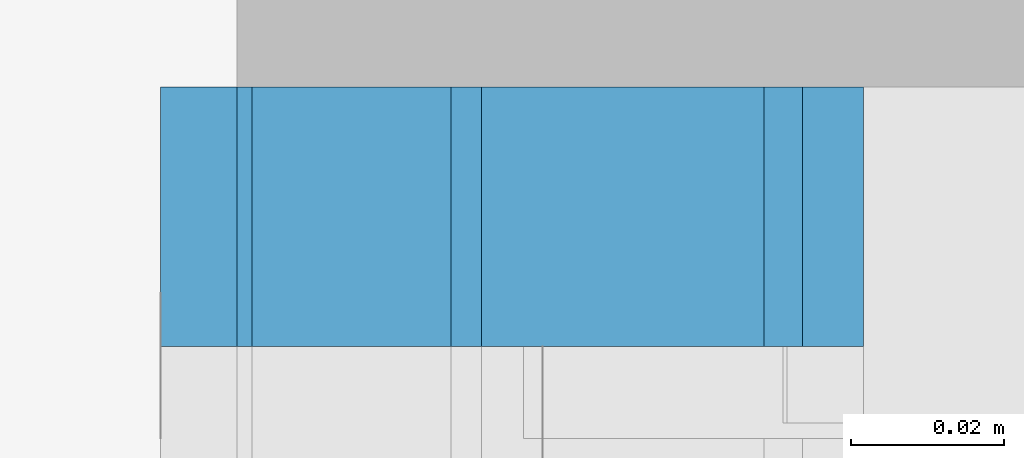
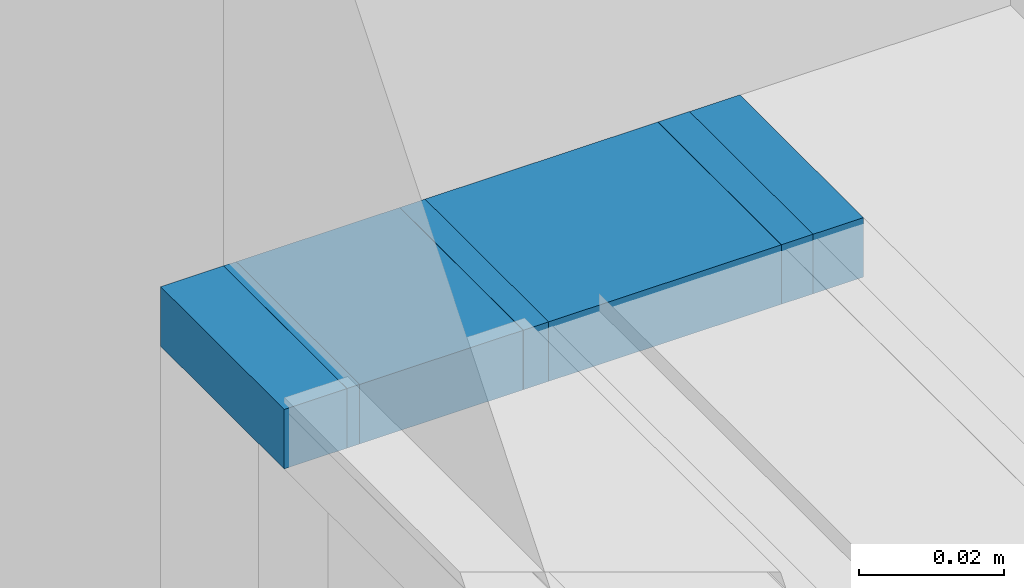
# One storey, part 35 of 89: 4 building element parts, 2 elements without a shape of their own.
"""IFC2X3 building model written with IfcOpenShell, lengths in millimetres."""

from ifc_helpers import new_model, entity, si_unit, converted_unit, derived_unit, money_unit, direction, frame, origin_with_axes, place, context, subcontext, project, spatial, faceted_brep, source, transform, mapped, material, type_object, element, aggregate, save


model = new_model("IFC2X3")

# Units and contexts
model_context = context("Model", 3, precision=0.01, world=origin_with_axes(), true_north=direction((0.0, 1.0)))
body_context = subcontext(model_context, "Body", "Model", "MODEL_VIEW")
ifc_project = project(units=[si_unit("LENGTHUNIT", "METRE", prefix="MILLI"), si_unit("AREAUNIT", "SQUARE_METRE"), si_unit("VOLUMEUNIT", "CUBIC_METRE"), converted_unit("PLANEANGLEUNIT", "DEGREE", entity("IfcPlaneAngleMeasure", 0.0174532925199), si_unit("PLANEANGLEUNIT", "RADIAN"), dimensions=[0, 0, 0, 0, 0, 0, 0]), si_unit("SOLIDANGLEUNIT", "STERADIAN"), money_unit("EUR"), converted_unit("TIMEUNIT", "Year", entity("IfcTimeMeasure", 31556926.0), si_unit("TIMEUNIT", "SECOND"), dimensions=[0, 0, 1, 0, 0, 0, 0]), si_unit("MASSUNIT", "GRAM", prefix="KILO"), si_unit("THERMODYNAMICTEMPERATUREUNIT", "DEGREE_CELSIUS"), si_unit("LUMINOUSINTENSITYUNIT", "LUMEN"), si_unit("ENERGYUNIT", "JOULE", prefix="MEGA"), derived_unit("THERMALCONDUCTANCEUNIT", [(si_unit("POWERUNIT", "WATT"), 1), (si_unit("LENGTHUNIT", "METRE"), -1), (si_unit("THERMODYNAMICTEMPERATUREUNIT", "KELVIN"), -1)]), derived_unit("SPECIFICHEATCAPACITYUNIT", [(si_unit("ENERGYUNIT", "JOULE"), 1), (si_unit("MASSUNIT", "GRAM", prefix="KILO"), -1), (si_unit("THERMODYNAMICTEMPERATUREUNIT", "KELVIN"), -1)]), derived_unit("MASSDENSITYUNIT", [(si_unit("MASSUNIT", "GRAM", prefix="KILO"), 1), (si_unit("VOLUMEUNIT", "CUBIC_METRE"), -1)])], contexts=[model_context])

# Site, building, storey
site_placement = place(None, origin_with_axes())
site = spatial("IfcSite", under=ifc_project, at=site_placement, Name="Puškini 31, Narva", CompositionType="ELEMENT")
building_placement = place(site_placement, origin_with_axes())
building = spatial("IfcBuilding", under=site, at=building_placement, Name="Narva Riigigümnaasium", CompositionType="ELEMENT")
storey_placement = place(building_placement, frame((0.0, 0.0, -3300.0), z_axis=(0.0, 0.0, 1.0), x_axis=(1.0, 0.0, 0.0)))
storey = spatial("IfcBuildingStorey", under=building, at=storey_placement, Name="1.korrus -3.3", CompositionType="ELEMENT", Elevation=-3300.0)

# Curtain wall, plate, building element parts
curtain_wall_type = type_object("IfcCurtainWallType", Name="Curtain Wall Type", PredefinedType="NOTDEFINED")
curtain_wall_placement = place(storey_placement, frame((33249.9999781, 201010.999711, -1.71671428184e-05), z_axis=(0.0, 0.0, 1.0), x_axis=(1.0, 0.0, 0.0)))
curtain_wall = element("IfcCurtainWall", 1, at=curtain_wall_placement, inside=storey, type_object=curtain_wall_type, Name="SUS-02")
plate_type = type_object("IfcPlateType", Name="SA-Siseuksesüsteem-Paneel 34 x 10 x 0", PredefinedType="CURTAIN_PANEL")
plate_placement = place(curtain_wall_placement, frame((0.0, 2367.00000032, 2395.00000263), z_axis=(0.0, 0.0, 1.0), x_axis=(0.0, -1.0, 0.0)))
plate = element("IfcPlate", 2, at=plate_placement, type_object=plate_type, Name="Panel-SA-Siseuks-084", ObjectType="CURTAIN_PANEL")
aggregate(curtain_wall, [plate])
ifc_material_1 = material(Name="MDF")
shared_shape_1 = source(origin_with_axes(), body_context, "Body", "Brep", [
    faceted_brep([(34.0, 10.0, 0.0), (0.0, 10.0, 0.0), (0.0, 10.0, 10.0), (34.0, 10.0, 10.0), (34.0, 0.0, 0.0), (0.0, 0.0, 0.0), (0.0, 0.0, 10.0), (34.0, 0.0, 10.0)], [[[0, 1, 2, 3]], [[0, 4, 5, 1]], [[1, 5, 6, 2]], [[3, 2, 6, 7]], [[4, 0, 3, 7]], [[5, 4, 7, 6]]]),
    faceted_brep([(34.0, 10.0, 84.0), (0.0, 10.0, 84.0), (0.0, 10.0, 92.0), (34.0, 10.0, 92.0), (34.0, 0.0, 84.0), (0.0, 0.0, 84.0), (0.0, 0.0, 92.0), (34.0, 0.0, 92.0)], [[[0, 1, 2, 3]], [[0, 4, 5, 1]], [[1, 5, 6, 2]], [[3, 2, 6, 7]], [[4, 0, 3, 7]], [[5, 4, 7, 6]]]),
])
building_element_part_1_placement = place(plate_placement, origin_with_axes())
building_element_part_1 = element("IfcBuildingElementPart", 3, at=building_element_part_1_placement, material=ifc_material_1, Name="MDF", context=body_context, shape_type="MappedRepresentation", body=[
    mapped(shared_shape_1, transform((17.0, 0.0, -5.0), x_axis=(-1.0, 0.0, 0.0), y_axis=(0.0, 0.0, 1.0), z_axis=(0.0, 1.0, 0.0))),
])
ifc_material_2 = material(Name="Õhkvahe")
shared_shape_2 = source(origin_with_axes(), body_context, "Body", "Brep", [
    faceted_brep([(34.0, 10.0, 10.0), (0.0, 10.0, 10.0), (0.0, 10.0, 12.0), (34.0, 10.0, 12.0), (34.0, 0.0, 10.0), (0.0, 0.0, 10.0), (0.0, 0.0, 12.0), (34.0, 0.0, 12.0)], [[[0, 1, 2, 3]], [[0, 4, 5, 1]], [[1, 5, 6, 2]], [[3, 2, 6, 7]], [[4, 0, 3, 7]], [[5, 4, 7, 6]]]),
    faceted_brep([(34.0, 10.0, 38.0), (0.0, 10.0, 38.0), (0.0, 10.0, 42.0), (34.0, 10.0, 42.0), (34.0, 0.0, 38.0), (0.0, 0.0, 38.0), (0.0, 0.0, 42.0), (34.0, 0.0, 42.0)], [[[0, 1, 2, 3]], [[0, 4, 5, 1]], [[1, 5, 6, 2]], [[3, 2, 6, 7]], [[4, 0, 3, 7]], [[5, 4, 7, 6]]]),
    faceted_brep([(34.0, 10.0, 79.0), (0.0, 10.0, 79.0), (0.0, 10.0, 84.0), (34.0, 10.0, 84.0), (34.0, 0.0, 79.0), (0.0, 0.0, 79.0), (0.0, 0.0, 84.0), (34.0, 0.0, 84.0)], [[[0, 1, 2, 3]], [[0, 4, 5, 1]], [[1, 5, 6, 2]], [[3, 2, 6, 7]], [[4, 0, 3, 7]], [[5, 4, 7, 6]]]),
])
building_element_part_2_placement = place(plate_placement, origin_with_axes())
building_element_part_2 = element("IfcBuildingElementPart", 4, at=building_element_part_2_placement, material=ifc_material_2, Name="Õhkvahe", context=body_context, shape_type="MappedRepresentation", body=[
    mapped(shared_shape_2, transform((17.0, 0.0, -5.0), x_axis=(-1.0, 0.0, 0.0), y_axis=(0.0, 0.0, 1.0), z_axis=(0.0, 1.0, 0.0))),
])
ifc_material_3 = material(Name="Kipsplaat")
shared_shape_3 = source(origin_with_axes(), body_context, "Body", "Brep", [
    faceted_brep([(34.0, 10.0, 12.0), (0.0, 10.0, 12.0), (0.0, 10.0, 25.0), (34.0, 10.0, 25.0), (34.0, 0.0, 12.0), (0.0, 0.0, 12.0), (0.0, 0.0, 25.0), (34.0, 0.0, 25.0)], [[[0, 1, 2, 3]], [[0, 4, 5, 1]], [[1, 5, 6, 2]], [[3, 2, 6, 7]], [[4, 0, 3, 7]], [[5, 4, 7, 6]]]),
    faceted_brep([(34.0, 10.0, 25.0), (0.0, 10.0, 25.0), (0.0, 10.0, 38.0), (34.0, 10.0, 38.0), (34.0, 0.0, 25.0), (0.0, 0.0, 25.0), (0.0, 0.0, 38.0), (34.0, 0.0, 38.0)], [[[0, 1, 2, 3]], [[0, 4, 5, 1]], [[1, 5, 6, 2]], [[3, 2, 6, 7]], [[4, 0, 3, 7]], [[5, 4, 7, 6]]]),
])
building_element_part_3_placement = place(plate_placement, origin_with_axes())
building_element_part_3 = element("IfcBuildingElementPart", 5, at=building_element_part_3_placement, material=ifc_material_3, Name="Kipsplaat", context=body_context, shape_type="MappedRepresentation", body=[
    mapped(shared_shape_3, transform((17.0, 0.0, -5.0), x_axis=(-1.0, 0.0, 0.0), y_axis=(0.0, 0.0, 1.0), z_axis=(0.0, 1.0, 0.0))),
])
ifc_material_4 = material(Name="Klaasvill")
shared_shape_4 = source(origin_with_axes(), body_context, "Body", "Brep", [
    faceted_brep([(34.0, 10.0, 42.0), (0.0, 10.0, 42.0), (0.0, 10.0, 79.0), (34.0, 10.0, 79.0), (34.0, 0.0, 42.0), (0.0, 0.0, 42.0), (0.0, 0.0, 79.0), (34.0, 0.0, 79.0)], [[[0, 1, 2, 3]], [[0, 4, 5, 1]], [[1, 5, 6, 2]], [[3, 2, 6, 7]], [[4, 0, 3, 7]], [[5, 4, 7, 6]]]),
])
building_element_part_4_placement = place(plate_placement, origin_with_axes())
building_element_part_4 = element("IfcBuildingElementPart", 6, at=building_element_part_4_placement, material=ifc_material_4, Name="Klaasvill", context=body_context, shape_type="MappedRepresentation", body=[
    mapped(shared_shape_4, transform((17.0, 0.0, -5.0), x_axis=(-1.0, 0.0, 0.0), y_axis=(0.0, 0.0, 1.0), z_axis=(0.0, 1.0, 0.0))),
])
aggregate(plate, [building_element_part_1, building_element_part_2, building_element_part_3, building_element_part_4])

save(model, "model.ifc")
